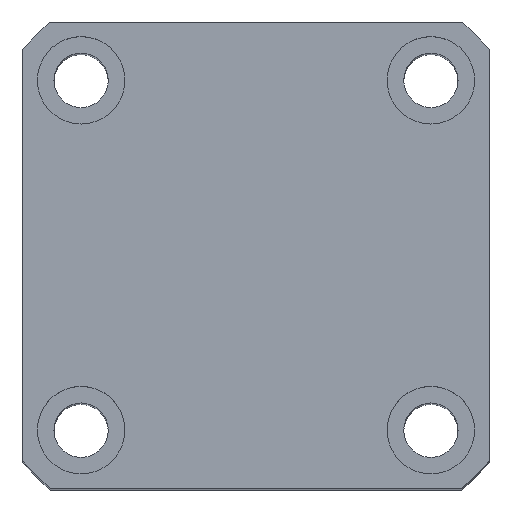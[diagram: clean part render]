
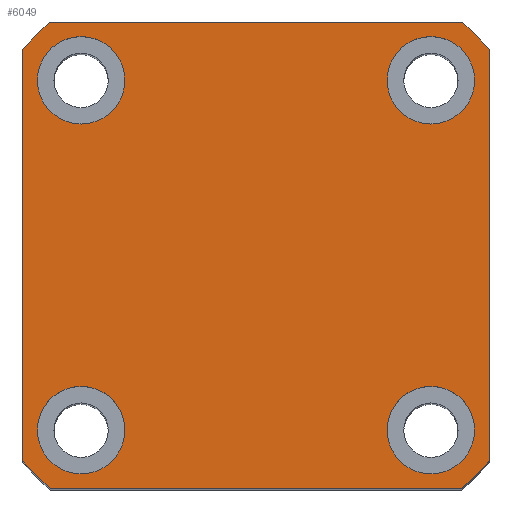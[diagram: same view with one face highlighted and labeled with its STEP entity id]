
A CAD part, top view. The second image highlights one B-rep face of the part: STEP entity #6049.
In plain terms, the highlighted planar face has unit normal (0, 0, 1).
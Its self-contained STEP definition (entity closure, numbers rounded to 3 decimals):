
#2971=LINE('',#16668,#3854);
#2975=LINE('',#16946,#3858);
#2979=LINE('',#16955,#3862);
#2983=LINE('',#16964,#3866);
#3854=VECTOR('',#12639,1.);
#3858=VECTOR('',#12757,1.);
#3862=VECTOR('',#12763,1.);
#3866=VECTOR('',#12769,1.);
#4861=PLANE('',#12213);
#6049=ADVANCED_FACE('',(#6565,#6566,#6567,#6568,#6569),#4861,.T.);
#6565=FACE_BOUND('',#6752,.T.);
#6566=FACE_BOUND('',#6753,.T.);
#6567=FACE_BOUND('',#6754,.T.);
#6568=FACE_BOUND('',#6755,.T.);
#6569=FACE_BOUND('',#6756,.T.);
#6752=EDGE_LOOP('',(#7399));
#6753=EDGE_LOOP('',(#7400));
#6754=EDGE_LOOP('',(#7401));
#6755=EDGE_LOOP('',(#7402));
#6756=EDGE_LOOP('',(#7403,#7404,#7405,#7406,#7407,#7408,#7409,#7410));
#7399=ORIENTED_EDGE('',*,*,#10806,.F.);
#7400=ORIENTED_EDGE('',*,*,#10808,.F.);
#7401=ORIENTED_EDGE('',*,*,#10810,.F.);
#7402=ORIENTED_EDGE('',*,*,#10812,.F.);
#7403=ORIENTED_EDGE('',*,*,#10827,.T.);
#7404=ORIENTED_EDGE('',*,*,#10838,.T.);
#7405=ORIENTED_EDGE('',*,*,#10783,.T.);
#7406=ORIENTED_EDGE('',*,*,#10839,.T.);
#7407=ORIENTED_EDGE('',*,*,#10831,.T.);
#7408=ORIENTED_EDGE('',*,*,#10840,.T.);
#7409=ORIENTED_EDGE('',*,*,#10835,.T.);
#7410=ORIENTED_EDGE('',*,*,#10841,.T.);
#9874=VERTEX_POINT('',#16666);
#9876=VERTEX_POINT('',#16669);
#9898=VERTEX_POINT('',#16895);
#9900=VERTEX_POINT('',#16900);
#9902=VERTEX_POINT('',#16905);
#9904=VERTEX_POINT('',#16910);
#9917=VERTEX_POINT('',#16944);
#9919=VERTEX_POINT('',#16947);
#9921=VERTEX_POINT('',#16953);
#9923=VERTEX_POINT('',#16956);
#9925=VERTEX_POINT('',#16962);
#9927=VERTEX_POINT('',#16965);
#10783=EDGE_CURVE('',#9876,#9874,#2971,.T.);
#10806=EDGE_CURVE('',#9898,#9898,#12062,.T.);
#10808=EDGE_CURVE('',#9900,#9900,#12064,.T.);
#10810=EDGE_CURVE('',#9902,#9902,#12066,.T.);
#10812=EDGE_CURVE('',#9904,#9904,#12068,.T.);
#10827=EDGE_CURVE('',#9919,#9917,#2975,.T.);
#10831=EDGE_CURVE('',#9923,#9921,#2979,.T.);
#10835=EDGE_CURVE('',#9927,#9925,#2983,.T.);
#10838=EDGE_CURVE('',#9917,#9876,#12082,.T.);
#10839=EDGE_CURVE('',#9874,#9923,#12083,.T.);
#10840=EDGE_CURVE('',#9921,#9927,#12084,.T.);
#10841=EDGE_CURVE('',#9925,#9919,#12085,.T.);
#12062=CIRCLE('',#12176,4.5);
#12064=CIRCLE('',#12179,4.5);
#12066=CIRCLE('',#12182,4.5);
#12068=CIRCLE('',#12185,4.5);
#12082=CIRCLE('',#12209,32.);
#12083=CIRCLE('',#12210,32.);
#12084=CIRCLE('',#12211,32.);
#12085=CIRCLE('',#12212,32.);
#12176=AXIS2_PLACEMENT_3D('',#16894,#12696,#12697);
#12179=AXIS2_PLACEMENT_3D('',#16899,#12702,#12703);
#12182=AXIS2_PLACEMENT_3D('',#16904,#12708,#12709);
#12185=AXIS2_PLACEMENT_3D('',#16909,#12714,#12715);
#12209=AXIS2_PLACEMENT_3D('',#16970,#12774,#12775);
#12210=AXIS2_PLACEMENT_3D('',#16971,#12776,#12777);
#12211=AXIS2_PLACEMENT_3D('',#16972,#12778,#12779);
#12212=AXIS2_PLACEMENT_3D('',#16973,#12780,#12781);
#12213=AXIS2_PLACEMENT_3D('',#16974,#12782,#12783);
#12639=DIRECTION('',(-1.,0.,0.));
#12696=DIRECTION('',(0.,0.,1.));
#12697=DIRECTION('',(1.,0.,0.));
#12702=DIRECTION('',(0.,0.,1.));
#12703=DIRECTION('',(1.,0.,0.));
#12708=DIRECTION('',(0.,0.,1.));
#12709=DIRECTION('',(1.,0.,0.));
#12714=DIRECTION('',(0.,0.,1.));
#12715=DIRECTION('',(1.,0.,0.));
#12757=DIRECTION('',(0.,1.,0.));
#12763=DIRECTION('',(0.,-1.,0.));
#12769=DIRECTION('',(1.,0.,0.));
#12774=DIRECTION('',(0.,0.,1.));
#12775=DIRECTION('',(1.,0.,0.));
#12776=DIRECTION('',(0.,0.,1.));
#12777=DIRECTION('',(1.,0.,0.));
#12778=DIRECTION('',(0.,0.,1.));
#12779=DIRECTION('',(1.,0.,0.));
#12780=DIRECTION('',(0.,0.,1.));
#12781=DIRECTION('',(1.,0.,0.));
#12782=DIRECTION('',(0.,0.,1.));
#12783=DIRECTION('',(-1.,0.,0.));
#16666=CARTESIAN_POINT('',(-86.429,38.525,109.478));
#16668=CARTESIAN_POINT('',(-89.263,38.525,109.478));
#16669=CARTESIAN_POINT('',(-44.097,38.525,109.478));
#16894=CARTESIAN_POINT('',(-47.263,-3.475,109.478));
#16895=CARTESIAN_POINT('',(-42.763,-3.475,109.478));
#16899=CARTESIAN_POINT('',(-83.263,-3.475,109.478));
#16900=CARTESIAN_POINT('',(-78.763,-3.475,109.478));
#16904=CARTESIAN_POINT('',(-47.263,32.525,109.478));
#16905=CARTESIAN_POINT('',(-42.763,32.525,109.478));
#16909=CARTESIAN_POINT('',(-83.263,32.525,109.478));
#16910=CARTESIAN_POINT('',(-78.763,32.525,109.478));
#16944=CARTESIAN_POINT('',(-41.263,35.691,109.478));
#16946=CARTESIAN_POINT('',(-41.263,38.525,109.478));
#16947=CARTESIAN_POINT('',(-41.263,-6.641,109.478));
#16953=CARTESIAN_POINT('',(-89.263,-6.641,109.478));
#16955=CARTESIAN_POINT('',(-89.263,38.525,109.478));
#16956=CARTESIAN_POINT('',(-89.263,35.691,109.478));
#16962=CARTESIAN_POINT('',(-44.097,-9.475,109.478));
#16964=CARTESIAN_POINT('',(-89.263,-9.475,109.478));
#16965=CARTESIAN_POINT('',(-86.429,-9.475,109.478));
#16970=CARTESIAN_POINT('',(-65.263,14.525,109.478));
#16971=CARTESIAN_POINT('',(-65.263,14.525,109.478));
#16972=CARTESIAN_POINT('',(-65.263,14.525,109.478));
#16973=CARTESIAN_POINT('',(-65.263,14.525,109.478));
#16974=CARTESIAN_POINT('',(-65.263,14.525,109.478));
